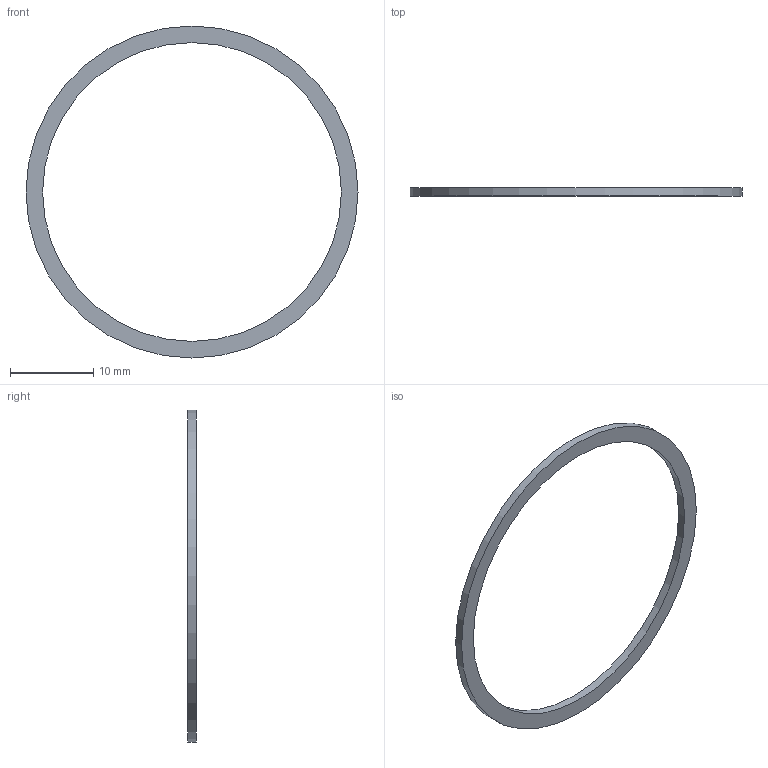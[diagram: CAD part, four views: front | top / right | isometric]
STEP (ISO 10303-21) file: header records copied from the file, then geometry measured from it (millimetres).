
FILE_DESCRIPTION(('Open CASCADE Model'),'2;1');
FILE_NAME('speaker_rim_foam_gasket_1_3to1_0','2026-09-08T13:43:18',( 'Author'),('Open CASCADE'),'Open CASCADE STEP processor 7.8', 'build123d','Unknown');
FILE_SCHEMA(('AUTOMOTIVE_DESIGN { 1 0 10303 214 1 1 1 1 }'));
Length unit declared in the file: millimetre
Products named in the file (2): =>[0:1:1:2]; speaker_rim_foam_gasket_1_3to1_0
Assembly tree (1 placements, depth 2):
  =>[0:1:1:2]
    speaker_rim_foam_gasket_1_3to1_0
Bounding box: 40 x 1 x 40 mm (x, y, z)
Volume: 238.8 mm3; surface area: 716.3 mm2
Topology: 1 solids, 1 shells, 4 faces, 6 edges, 4 vertices
Faces by surface type: cylinder 2, plane 2
Full cylindrical faces by diameter (mm): 36 x1, 40 x1
Entity records: 204 total; most frequent: DIRECTION 34, CARTESIAN_POINT 28, ORIENTED_EDGE 12, PCURVE 12, DEFINITIONAL_REPRESENTATION 12, AXIS2_PLACEMENT_3D 10, LINE 10, VECTOR 10
